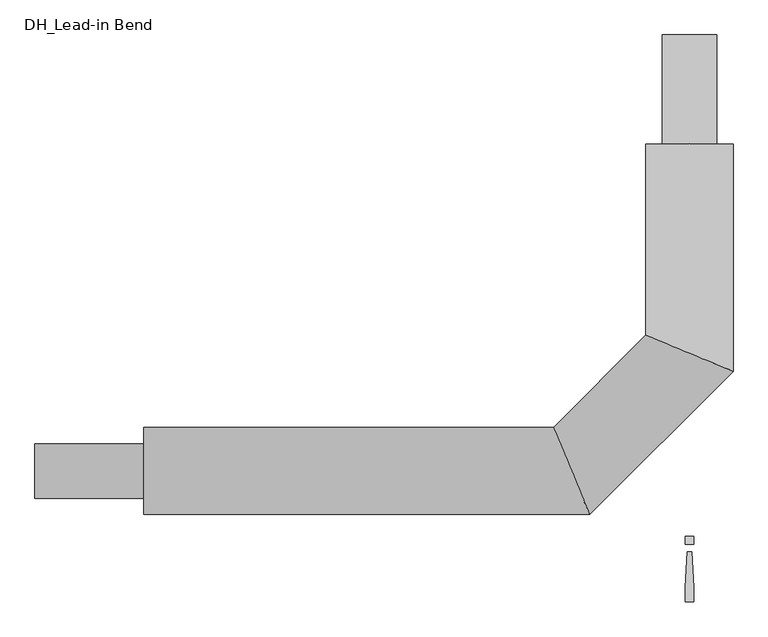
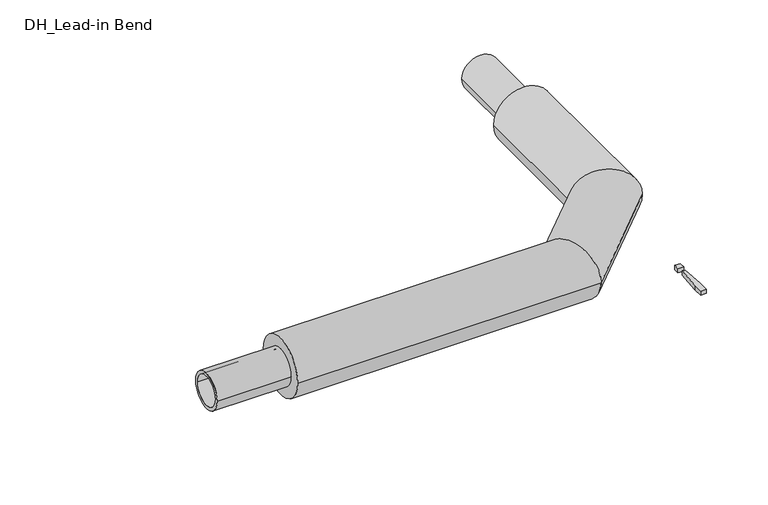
"""IFC4 building model written with IfcOpenShell, lengths in millimetres: pipe fitting geometry, DH_Lead-in Bend : INSULPEX UNO + 11 Heating."""

import ifcopenshell
import ifcopenshell.guid

model = None  # the IFC model being written
_history = None  # IfcOwnerHistory: only IFC2X3 demands one
_inside = {}  # id of a spatial element -> (the spatial element, [elements in it])
_under = {}  # id of a project, library or spatial element -> (it, [spatial elements below it])
_declared = {}  # id of a project -> (the project, [libraries it declares])
_typed = {}  # id of a type object -> (the type object, [elements of that type])
_made_of = {}  # id of a material, layer set ... -> (it, [elements and type objects made of it])


def new_model(schema):
    """Start an empty IFC model of exactly this schema.

    Asked for "IFC4X3", IfcOpenShell would pick the latest addendum, in which some entities
    have other attributes; the version numbers below select the first issue.
    IFC2X3 requires an IfcOwnerHistory on every rooted entity: one is made here for all.
    """
    global model, _history
    if schema == "IFC4X3":
        model = ifcopenshell.file(schema_version=(4, 3, 0, 0))
    else:
        model = ifcopenshell.file(schema=schema)
    _inside.clear()
    _under.clear()
    _declared.clear()
    _typed.clear()
    _made_of.clear()
    _history = None
    if model.schema == "IFC2X3":
        org = make("IfcOrganization", Name="unknown")
        user = make(
            "IfcPersonAndOrganization",
            ThePerson=make("IfcPerson", FamilyName="unknown"),
            TheOrganization=org,
        )
        app = make(
            "IfcApplication",
            ApplicationDeveloper=org,
            Version="unknown",
            ApplicationFullName="unknown",
            ApplicationIdentifier="unknown",
        )
        _history = make(
            "IfcOwnerHistory",
            OwningUser=user,
            OwningApplication=app,
            ChangeAction="ADDED",
            CreationDate=0,
        )
    return model


def make(cls, **values):
    """One entity of the class cls with the attributes given. An attribute that is None is left unset."""
    return model.create_entity(
        cls, **{name: value for name, value in values.items() if value is not None}
    )


def rooted(cls, **values):
    """An entity with a GlobalId (a new one), such as an element, a storey or a relation."""
    return make(cls, GlobalId=ifcopenshell.guid.new(), OwnerHistory=_history, **values)


def si_unit(unit_type, name, prefix=None):
    """IfcSIUnit, for example si_unit("LENGTHUNIT", "METRE", prefix="MILLI")."""
    return make("IfcSIUnit", UnitType=unit_type, Prefix=prefix, Name=name)


def assignment(units):
    """IfcUnitAssignment: the units of a project."""
    return None if units is None else make("IfcUnitAssignment", Units=units)


def point(xyz):
    """IfcCartesianPoint."""
    return None if xyz is None else make("IfcCartesianPoint", Coordinates=xyz)


def direction(xyz):
    """IfcDirection."""
    return None if xyz is None else make("IfcDirection", DirectionRatios=xyz)


def frame(location, z_axis=None, x_axis=None):
    """IfcAxis2Placement3D, a coordinate frame: its origin and axes. An axis left out is left unset."""
    return make(
        "IfcAxis2Placement3D",
        Location=point(location),
        Axis=direction(z_axis),
        RefDirection=direction(x_axis),
    )


def frame_2d(location, x_axis=None):
    """IfcAxis2Placement2D, a coordinate frame in the plane: its origin and x axis."""
    return make(
        "IfcAxis2Placement2D", Location=point(location), RefDirection=direction(x_axis)
    )


def origin():
    """The frame at (0, 0, 0) with its axes left unset."""
    return frame((0.0, 0.0, 0.0))


def origin_with_axes():
    """The frame at (0, 0, 0) with the z axis (0, 0, 1) and the x axis (1, 0, 0) written out."""
    return frame((0.0, 0.0, 0.0), z_axis=(0.0, 0.0, 1.0), x_axis=(1.0, 0.0, 0.0))


def origin_2d():
    """The frame at (0, 0) in the plane with its x axis left unset."""
    return frame_2d((0.0, 0.0))


def place(relative_to, where):
    """IfcLocalPlacement: puts the frame where relative to a parent placement (None: the world)."""
    return make(
        "IfcLocalPlacement", PlacementRelTo=relative_to, RelativePlacement=where
    )


def context(
    kind, dimensions, precision=None, world=None, true_north=None, identifier=None
):
    """IfcGeometricRepresentationContext, for example the 3D "Model" context."""
    return make(
        "IfcGeometricRepresentationContext",
        ContextIdentifier=identifier,
        ContextType=kind,
        CoordinateSpaceDimension=dimensions,
        Precision=precision,
        WorldCoordinateSystem=world,
        TrueNorth=true_north,
    )


def project(units=None, contexts=None):
    """IfcProject with its units and contexts."""
    return rooted(
        "IfcProject",
        Name="project",
        RepresentationContexts=contexts,
        UnitsInContext=assignment(units),
    )


def spatial(cls, under=None, at=None, **own):
    """A site, building, storey or space (cls), placed at a placement, below another one or the project."""
    s = rooted(cls, ObjectPlacement=at, **own)
    if under is not None:
        _under.setdefault(under.id(), (under, []))[1].append(s)
    return s


def polyline(points):
    """IfcPolyline through the points."""
    return make("IfcPolyline", Points=[point(p) for p in points])


def circle_curve(where, radius):
    """IfcCircle in the frame where."""
    return make("IfcCircle", Position=where, Radius=radius)


def ellipse_curve(where, semi_axis1, semi_axis2):
    """IfcEllipse in the frame where."""
    return make(
        "IfcEllipse", Position=where, SemiAxis1=semi_axis1, SemiAxis2=semi_axis2
    )


def trimmed(basis, trim1, trim2, sense, master):
    """IfcTrimmedCurve: the piece of a basis curve between two trims."""
    return make(
        "IfcTrimmedCurve",
        BasisCurve=basis,
        Trim1=trim1,
        Trim2=trim2,
        SenseAgreement=sense,
        MasterRepresentation=master,
    )


def segment(curve, same_sense, transition):
    """IfcCompositeCurveSegment."""
    return make(
        "IfcCompositeCurveSegment",
        Transition=transition,
        SameSense=same_sense,
        ParentCurve=curve,
    )


def composite_curve(segments, self_intersect=None):
    """IfcCompositeCurve: segments joined end to end."""
    return make("IfcCompositeCurve", Segments=segments, SelfIntersect=self_intersect)


def outline(outer, holes=None, kind="AREA"):
    """IfcArbitraryClosedProfileDef: a profile drawn as a closed curve; with holes, ...WithVoids."""
    if holes is None:
        return make("IfcArbitraryClosedProfileDef", ProfileType=kind, OuterCurve=outer)
    return make(
        "IfcArbitraryProfileDefWithVoids",
        ProfileType=kind,
        OuterCurve=outer,
        InnerCurves=holes,
    )


def extrude(swept, where, along, depth):
    """IfcExtrudedAreaSolid: the profile swept, set in the frame where, extruded along a direction by depth."""
    return make(
        "IfcExtrudedAreaSolid",
        SweptArea=swept,
        Position=where,
        ExtrudedDirection=direction(along),
        Depth=depth,
    )


def shape(context_of_items, identifier, shape_type, items):
    """IfcShapeRepresentation: the items that make up one representation, for example the "Body"."""
    return make(
        "IfcShapeRepresentation",
        ContextOfItems=context_of_items,
        RepresentationIdentifier=identifier,
        RepresentationType=shape_type,
        Items=items,
    )


def source(mapping_origin, context_of_items, identifier, shape_type, items):
    """IfcRepresentationMap: a shape defined once, which mapped items show again and again."""
    return make(
        "IfcRepresentationMap",
        MappingOrigin=mapping_origin,
        MappedRepresentation=shape(context_of_items, identifier, shape_type, items),
    )


def transform(
    local_origin,
    x_axis=None,
    y_axis=None,
    z_axis=None,
    scale=None,
    scale2=None,
    scale3=None,
    uniform=True,
):
    """IfcCartesianTransformationOperator3D, or its non-uniform kind. x_axis, y_axis, z_axis: its Axis1, 2, 3."""
    if uniform:
        return make(
            "IfcCartesianTransformationOperator3D",
            Axis1=direction(x_axis),
            Axis2=direction(y_axis),
            LocalOrigin=point(local_origin),
            Scale=scale,
            Axis3=direction(z_axis),
        )
    return make(
        "IfcCartesianTransformationOperator3DnonUniform",
        Axis1=direction(x_axis),
        Axis2=direction(y_axis),
        LocalOrigin=point(local_origin),
        Scale=scale,
        Axis3=direction(z_axis),
        Scale2=scale2,
        Scale3=scale3,
    )


def mapped(mapping_source, mapping_target):
    """IfcMappedItem: shows the shape of a source again, moved by a transform."""
    return make(
        "IfcMappedItem", MappingSource=mapping_source, MappingTarget=mapping_target
    )


def made_of(thing, what):
    """Note that an element or type object is made of a material, layer set ...; save() writes the relation."""
    if what is not None:
        _made_of.setdefault(what.id(), (what, []))[1].append(thing)
    return thing


def element(
    cls,
    number,
    at=None,
    inside=None,
    cuts=None,
    type_object=None,
    material=None,
    context=None,
    identifier="Body",
    shape_type=None,
    held_by="IfcProductDefinitionShape",
    body=None,
    shapes=None,
    **own,
):
    """One element of the class cls, such as IfcWall. Its Tag is "e" and its number.

    at: its placement. inside: the storey or other place that contains it. cuts: it is an
    opening in that element (IfcRelVoidsElement). A single representation is given by context,
    identifier, shape_type and body (its items); several are given by shapes. held_by: the class
    of the entity that holds the representations. save() writes the other relations.
    """
    e = rooted(cls, Tag="e%d" % number, ObjectPlacement=at, **own)
    if body is not None:
        shapes = [shape(context, identifier, shape_type, body)]
    if shapes is not None:
        e.Representation = make(held_by, Representations=shapes)
    if inside is not None:
        _inside.setdefault(inside.id(), (inside, []))[1].append(e)
    if cuts is not None:
        rooted(
            "IfcRelVoidsElement", RelatingBuildingElement=cuts, RelatedOpeningElement=e
        )
    if type_object is not None:
        _typed.setdefault(type_object.id(), (type_object, []))[1].append(e)
    return made_of(e, material)


def aggregate(whole, parts):
    """IfcRelAggregates: a whole, such as a stair, and the parts it consists of."""
    return rooted("IfcRelAggregates", RelatingObject=whole, RelatedObjects=parts)


def save(model, path):
    """Write the relations noted so far, then the file.

    IfcRelAggregates (storeys below a building ...), IfcRelContainedInSpatialStructure (elements
    in a storey), IfcRelDefinesByType, IfcRelAssociatesMaterial and IfcRelDeclares: one each for
    every whole, place, type object, material and project.
    """
    for whole, parts in _under.values():
        aggregate(whole, parts)
    for where, things in _inside.values():
        rooted(
            "IfcRelContainedInSpatialStructure",
            RelatedElements=things,
            RelatingStructure=where,
        )
    for kind, things in _typed.values():
        rooted("IfcRelDefinesByType", RelatedObjects=things, RelatingType=kind)
    for what, things in _made_of.values():
        rooted("IfcRelAssociatesMaterial", RelatedObjects=things, RelatingMaterial=what)
    for by, libraries in _declared.values():
        rooted("IfcRelDeclares", RelatingContext=by, RelatedDefinitions=libraries)
    model.write(path)


def plane_surface(at):
    """IfcPlane: the flat surface through the origin of the frame at, square to its z axis."""
    return make("IfcPlane", Position=at)


def cylinder_surface(at, radius):
    """IfcCylindricalSurface: all points at the distance radius from the z axis of the frame at."""
    return make("IfcCylindricalSurface", Position=at, Radius=radius)


def advanced_brep(points, edges, surfaces, faces):
    """IfcAdvancedBrep: a solid bounded by faces that lie on surfaces and meet in shared edges.

    An edge is (start, end): straight between two places in points (the first is 0);
    or (start, end, curve); or (start, end, curve, False) where it runs against its curve.
    A face is (place in surfaces, loops), or (place, loops, False) where it looks against
    its surface's normal. A loop lists edges by number (the first is 1), with a minus sign
    where the edge is run from its end to its start. The first loop is the outer one.
    """
    corners = [point(p) for p in points]
    vertices = [make("IfcVertexPoint", VertexGeometry=c) for c in corners]
    made = []
    for start, end, *more in edges:
        made.append(
            make(
                "IfcEdgeCurve",
                EdgeStart=vertices[start],
                EdgeEnd=vertices[end],
                EdgeGeometry=more[0] if more else make("IfcPolyline", Points=[corners[start], corners[end]]),
                SameSense=more[1] if len(more) > 1 else True,
            )
        )
    hull = []
    for where, loops, *sense in faces:
        bounds = []
        for j, loop in enumerate(loops):
            ring = [make("IfcOrientedEdge", EdgeElement=made[abs(k) - 1], Orientation=k > 0) for k in loop]
            bounds.append(
                make(
                    "IfcFaceOuterBound" if j == 0 else "IfcFaceBound",
                    Bound=make("IfcEdgeLoop", EdgeList=ring),
                    Orientation=True,
                )
            )
        hull.append(make("IfcAdvancedFace", Bounds=bounds, FaceSurface=surfaces[where], SameSense=sense[0] if sense else True))
    return make("IfcAdvancedBrep", Outer=make("IfcClosedShell", CfsFaces=hull))


def dh_lead_in_bend_ebeab00c(model_context):
    return source(origin(), model_context, "Body", "SolidModel", [
        advanced_brep(
        [(-1250.0, -100.0, 0.0), (-1250.0, 100.0, 0.0), (-228.5786438, -100.0, 0.0), (-311.4213562, 100.0, 0.0), (100.0, 750.0, 0.0), (-100.0, 750.0, 0.0), (-100.0, 311.4213562, 0.0), (100.0, 228.5786438, 0.0)],
        [
            (0, 1, circle_curve(frame((-1250.0, 0.0, 0.0), z_axis=(-1.0, 0.0, 0.0), x_axis=(0.0, 1.0, 0.0)), 100.0)),
            (1, 0, circle_curve(frame((-1250.0, 0.0, 0.0), z_axis=(-1.0, 0.0, 0.0), x_axis=(0.0, 1.0, 0.0)), 100.0)),
            (0, 2),
            (2, 3, ellipse_curve(frame((-270.0, 0.0, 0.0), z_axis=(-0.9238795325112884, -0.38268343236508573, 0.0), x_axis=(-0.3826834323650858, 0.9238795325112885, 0.0)), 108.23922, 100.0)),
            (3, 1),
            (3, 2, ellipse_curve(frame((-270.0, 0.0, 0.0), z_axis=(-0.9238795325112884, -0.38268343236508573, 0.0), x_axis=(-0.3826834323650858, 0.9238795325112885, 0.0)), 108.23922, 100.0)),
            (4, 5, circle_curve(frame((0.0, 750.0, 0.0), z_axis=(0.0, 1.0, 0.0), x_axis=(-1.0, 0.0, 0.0)), 100.0)),
            (5, 4, circle_curve(frame((0.0, 750.0, 0.0), z_axis=(0.0, 1.0, 0.0), x_axis=(-1.0, 0.0, 0.0)), 100.0)),
            (6, 7, ellipse_curve(frame((0.0, 270.0, 0.0), z_axis=(0.38268343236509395, 0.9238795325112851, 0.0), x_axis=(0.9238795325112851, -0.38268343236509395, 0.0)), 108.23922, 100.0)),
            (7, 4),
            (5, 6),
            (7, 6, ellipse_curve(frame((0.0, 270.0, 0.0), z_axis=(0.38268343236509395, 0.9238795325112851, 0.0), x_axis=(0.9238795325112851, -0.38268343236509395, 0.0)), 108.23922, 100.0)),
            (2, 7),
            (6, 3),
        ],
        [
            plane_surface(frame((-1250.0, 0.0, 0.0), z_axis=(-1.0, 0.0, 0.0), x_axis=(0.0, 0.0, 1.0))),
            cylinder_surface(frame((-1250.0, 0.0, 0.0), z_axis=(-1.0, 0.0, 0.0), x_axis=(0.0, 1.0, 0.0)), 100.0),
            plane_surface(frame((0.0, 750.0, 0.0), z_axis=(0.0, 1.0, 0.0), x_axis=(0.0, 0.0, 1.0))),
            cylinder_surface(frame((0.0, 270.0, 0.0), z_axis=(0.0, -1.0, 0.0), x_axis=(-1.0, 0.0, 0.0)), 100.0),
            cylinder_surface(frame((-270.0, 0.0, 0.0), z_axis=(-0.7071067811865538, -0.7071067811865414, 0.0), x_axis=(-0.7071067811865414, 0.7071067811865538, 0.0)), 100.0),
        ],
        [
            (0, [[1, 2]]),
            (1, [[-1, 3, 4, 5]]),
            (1, [[-2, -5, 6, -3]]),
            (2, [[7, 8]]),
            (3, [[9, 10, -8, 11]]),
            (3, [[12, -11, -7, -10]]),
            (4, [[-4, 13, -9, 14]]),
            (4, [[-6, -14, -12, -13]]),
        ],
    ),
        extrude(outline(polyline([(4.7088895, -185.3166715), (9.4177791, -266.6553807), (9.4177791, -300.6844652), (-9.4177791, -300.6844652), (-9.4177791, -266.6553807), (-4.7088895, -185.3166715), (4.7088895, -185.3166715)])), origin_with_axes(), (0.0, 0.0, 1.0), 15.0),
        extrude(outline(polyline([(9.4177791, -150.0), (9.4177791, -168.8355582), (-9.4177791, -168.8355582), (-9.4177791, -150.0), (9.4177791, -150.0)])), origin_with_axes(), (0.0, 0.0, 1.0), 15.0),
        extrude(outline(composite_curve([segment(trimmed(circle_curve(origin_2d(), 62.5), [point((-62.5, 0.0))], [point((62.5, 0.0))], False, "CARTESIAN"), True, "CONTINUOUS"), segment(trimmed(circle_curve(origin_2d(), 62.5), [point((62.5, 0.0))], [point((-62.5, 0.0))], False, "CARTESIAN"), True, "CONTINUOUS")], self_intersect=False), holes=[composite_curve([segment(trimmed(circle_curve(origin_2d(), 51.1), [point((-51.1, 0.0))], [point((51.1, 0.0))], True, "CARTESIAN"), True, "CONTINUOUS"), segment(trimmed(circle_curve(origin_2d(), 51.1), [point((51.1, 0.0))], [point((-51.1, 0.0))], True, "CARTESIAN"), True, "CONTINUOUS")], self_intersect=False)]), frame((-1500.0, 0.0, 0.0), z_axis=(1.0, 0.0, 0.0), x_axis=(0.0, 1.0, 0.0)), (0.0, 0.0, 1.0), 250.0),
        extrude(outline(composite_curve([segment(trimmed(circle_curve(origin_2d(), 62.5), [point((0.0, 62.5))], [point((0.0, -62.5))], False, "CARTESIAN"), True, "CONTINUOUS"), segment(trimmed(circle_curve(origin_2d(), 62.5), [point((0.0, -62.5))], [point((0.0, 62.5))], False, "CARTESIAN"), True, "CONTINUOUS")], self_intersect=False), holes=[composite_curve([segment(trimmed(circle_curve(origin_2d(), 51.1), [point((0.0, 51.1))], [point((0.0, -51.1))], True, "CARTESIAN"), True, "CONTINUOUS"), segment(trimmed(circle_curve(origin_2d(), 51.1), [point((0.0, -51.1))], [point((0.0, 51.1))], True, "CARTESIAN"), True, "CONTINUOUS")], self_intersect=False)]), frame((0.0, 750.0, 0.0), z_axis=(0.0, 1.0, 0.0), x_axis=(0.0, 0.0, 1.0)), (0.0, 0.0, 1.0), 250.0),
    ])


if __name__ == "__main__":
    model = new_model("IFC4")
    model_context = context("Model", 3, world=origin())
    ifc_project = project(units=[si_unit("LENGTHUNIT", "METRE", prefix="MILLI")], contexts=[model_context])
    site = spatial("IfcSite", under=ifc_project)
    building = spatial("IfcBuilding", under=site)
    placement = place(None, origin())
    dh_lead_in_bend_shape = dh_lead_in_bend_ebeab00c(model_context)
    element("IfcPipeFitting", 1, ObjectType="DH_Lead-in Bend : INSULPEX UNO + 11 Heating", at=placement, inside=building, context=model_context, shape_type="MappedRepresentation", body=[
        mapped(dh_lead_in_bend_shape, transform((0.0, 0.0, 0.0), x_axis=(1.0, 0.0, 0.0), y_axis=(0.0, 1.0, 0.0), z_axis=(0.0, 0.0, 1.0))),
    ])
    save(model, "model.ifc")
